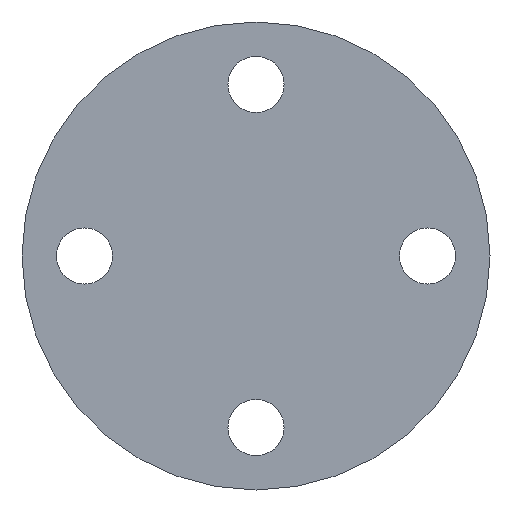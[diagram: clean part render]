
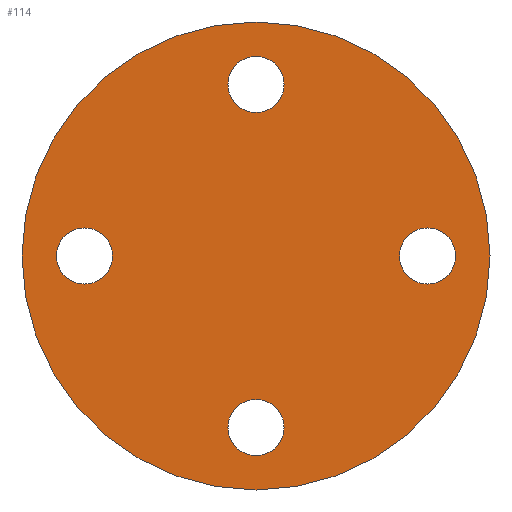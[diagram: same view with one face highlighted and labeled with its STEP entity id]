
A CAD part, front view. The second image highlights one B-rep face of the part: STEP entity #114.
In plain terms, the highlighted planar face has unit normal (0, -1, 0).
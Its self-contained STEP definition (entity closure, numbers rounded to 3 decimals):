
#13=PLANE($,#132);
#19=FACE_BOUND($,#43,.T.);
#20=FACE_BOUND($,#44,.T.);
#21=FACE_BOUND($,#45,.T.);
#22=FACE_BOUND($,#46,.T.);
#23=FACE_BOUND($,#47,.T.);
#43=EDGE_LOOP($,(#93));
#44=EDGE_LOOP($,(#94));
#45=EDGE_LOOP($,(#95));
#46=EDGE_LOOP($,(#96));
#47=EDGE_LOOP($,(#97));
#56=CIRCLE($,#122,9.);
#58=CIRCLE($,#125,9.);
#60=CIRCLE($,#128,9.);
#62=CIRCLE($,#131,9.);
#63=CIRCLE($,#133,75.);
#66=VERTEX_POINT($,#177);
#68=VERTEX_POINT($,#182);
#70=VERTEX_POINT($,#187);
#72=VERTEX_POINT($,#192);
#73=VERTEX_POINT($,#195);
#76=EDGE_CURVE($,#66,#66,#56,.T.);
#78=EDGE_CURVE($,#68,#68,#58,.T.);
#80=EDGE_CURVE($,#70,#70,#60,.T.);
#82=EDGE_CURVE($,#72,#72,#62,.T.);
#83=EDGE_CURVE($,#73,#73,#63,.T.);
#93=ORIENTED_EDGE($,*,*,#76,.T.);
#94=ORIENTED_EDGE($,*,*,#78,.T.);
#95=ORIENTED_EDGE($,*,*,#80,.T.);
#96=ORIENTED_EDGE($,*,*,#82,.T.);
#97=ORIENTED_EDGE($,*,*,#83,.F.);
#114=ADVANCED_FACE($,(#19,#20,#21,#22,#23),#13,.T.);
#122=AXIS2_PLACEMENT_3D($,#178,#143,#144);
#125=AXIS2_PLACEMENT_3D($,#183,#149,#150);
#128=AXIS2_PLACEMENT_3D($,#188,#155,#156);
#131=AXIS2_PLACEMENT_3D($,#193,#161,#162);
#132=AXIS2_PLACEMENT_3D($,#194,#163,#164);
#133=AXIS2_PLACEMENT_3D($,#196,#165,#166);
#143=DIRECTION('center_axis',(0.,1.,0.));
#144=DIRECTION('ref_axis',(0.,0.,1.));
#149=DIRECTION('center_axis',(0.,1.,0.));
#150=DIRECTION('ref_axis',(-1.,0.,0.));
#155=DIRECTION('center_axis',(0.,1.,0.));
#156=DIRECTION('ref_axis',(0.,0.,-1.));
#161=DIRECTION('center_axis',(0.,1.,0.));
#162=DIRECTION('ref_axis',(1.,0.,0.));
#163=DIRECTION('center_axis',(0.,-1.,0.));
#164=DIRECTION('ref_axis',(0.,0.,-1.));
#165=DIRECTION('center_axis',(0.,1.,0.));
#166=DIRECTION('ref_axis',(-1.,0.,0.));
#177=CARTESIAN_POINT('',(0.,0.,46.));
#178=CARTESIAN_POINT('Origin',(0.,0.,55.));
#182=CARTESIAN_POINT('',(-46.,0.,0.));
#183=CARTESIAN_POINT('Origin',(-55.,0.,0.));
#187=CARTESIAN_POINT('',(0.,0.,-46.));
#188=CARTESIAN_POINT('Origin',(0.,0.,-55.));
#192=CARTESIAN_POINT('',(46.,0.,0.));
#193=CARTESIAN_POINT('Origin',(55.,0.,0.));
#194=CARTESIAN_POINT('Origin',(-37.5,0.,0.));
#195=CARTESIAN_POINT('',(-75.,0.,0.));
#196=CARTESIAN_POINT('Origin',(0.,0.,0.));
